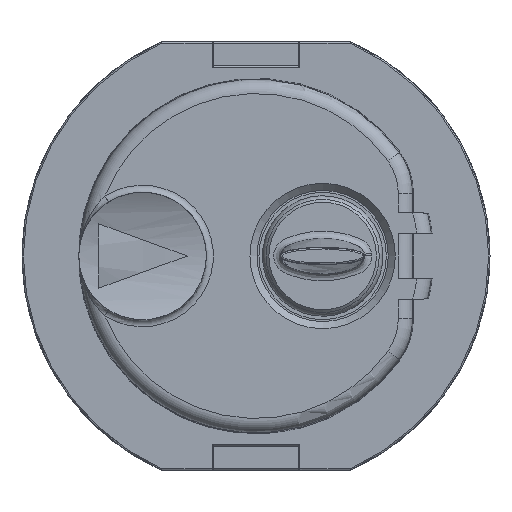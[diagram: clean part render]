
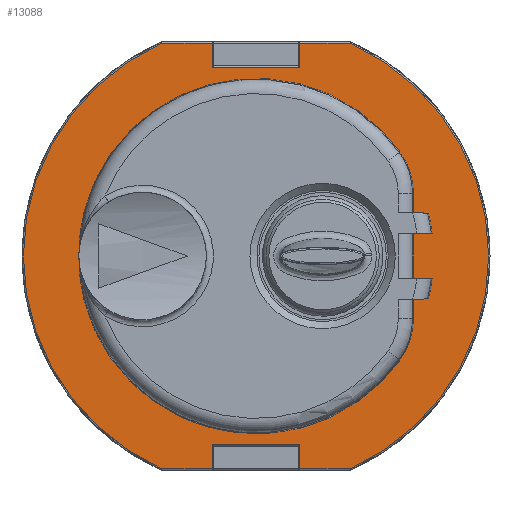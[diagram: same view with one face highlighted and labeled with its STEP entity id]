
A CAD part, front view. The second image highlights one B-rep face of the part: STEP entity #13088.
In plain terms, the highlighted planar face has unit normal (0, -1, 0).
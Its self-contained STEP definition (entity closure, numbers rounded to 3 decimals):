
#429=CIRCLE('',#14243,12.525);
#469=CIRCLE('',#14310,16.4);
#470=CIRCLE('',#14311,16.4);
#471=CIRCLE('',#14312,12.525);
#472=CIRCLE('',#14313,5.);
#473=CIRCLE('',#14314,5.);
#474=CIRCLE('',#14315,12.525);
#1476=FACE_BOUND('',#3020,.T.);
#2276=FACE_OUTER_BOUND('',#3019,.T.);
#3019=EDGE_LOOP('',(#11049,#11050,#11051,#11052,#11053,#11054,#11055,#11056,
#11057,#11058,#11059,#11060));
#3020=EDGE_LOOP('',(#11061,#11062,#11063,#11064,#11065,#11066,#11067,#11068,
#11069,#11070,#11071,#11072));
#4066=LINE('',#22990,#5129);
#4067=LINE('',#22992,#5130);
#4068=LINE('',#22994,#5131);
#4069=LINE('',#22996,#5132);
#4070=LINE('',#22998,#5133);
#4071=LINE('',#23002,#5134);
#4072=LINE('',#23004,#5135);
#4073=LINE('',#23006,#5136);
#4074=LINE('',#23008,#5137);
#4075=LINE('',#23009,#5138);
#4076=LINE('',#23014,#5139);
#4077=LINE('',#23016,#5140);
#4078=LINE('',#23021,#5141);
#4079=LINE('',#23023,#5142);
#4080=LINE('',#23027,#5143);
#4081=LINE('',#23029,#5144);
#4082=LINE('',#23030,#5145);
#5129=VECTOR('',#17151,1.);
#5130=VECTOR('',#17152,1.);
#5131=VECTOR('',#17153,1.);
#5132=VECTOR('',#17154,1.);
#5133=VECTOR('',#17155,1.);
#5134=VECTOR('',#17158,1.);
#5135=VECTOR('',#17159,1.);
#5136=VECTOR('',#17160,1.);
#5137=VECTOR('',#17161,1.);
#5138=VECTOR('',#17162,1.);
#5139=VECTOR('',#17165,1.);
#5140=VECTOR('',#17166,1.);
#5141=VECTOR('',#17171,1.);
#5142=VECTOR('',#17172,1.);
#5143=VECTOR('',#17175,1.);
#5144=VECTOR('',#17176,1.);
#5145=VECTOR('',#17177,1.);
#6235=VERTEX_POINT('',#22032);
#6238=VERTEX_POINT('',#22037);
#6344=VERTEX_POINT('',#22986);
#6345=VERTEX_POINT('',#22987);
#6346=VERTEX_POINT('',#22989);
#6347=VERTEX_POINT('',#22991);
#6348=VERTEX_POINT('',#22993);
#6349=VERTEX_POINT('',#22995);
#6350=VERTEX_POINT('',#22997);
#6351=VERTEX_POINT('',#22999);
#6352=VERTEX_POINT('',#23001);
#6353=VERTEX_POINT('',#23003);
#6354=VERTEX_POINT('',#23005);
#6355=VERTEX_POINT('',#23007);
#6356=VERTEX_POINT('',#23010);
#6357=VERTEX_POINT('',#23011);
#6358=VERTEX_POINT('',#23013);
#6359=VERTEX_POINT('',#23015);
#6360=VERTEX_POINT('',#23018);
#6361=VERTEX_POINT('',#23020);
#6362=VERTEX_POINT('',#23022);
#6363=VERTEX_POINT('',#23024);
#6364=VERTEX_POINT('',#23026);
#6365=VERTEX_POINT('',#23028);
#7870=EDGE_CURVE('',#6238,#6235,#429,.T.);
#7990=EDGE_CURVE('',#6344,#6345,#469,.T.);
#7991=EDGE_CURVE('',#6345,#6346,#4066,.T.);
#7992=EDGE_CURVE('',#6346,#6347,#4067,.T.);
#7993=EDGE_CURVE('',#6347,#6348,#4068,.T.);
#7994=EDGE_CURVE('',#6348,#6349,#4069,.T.);
#7995=EDGE_CURVE('',#6349,#6350,#4070,.T.);
#7996=EDGE_CURVE('',#6350,#6351,#470,.T.);
#7997=EDGE_CURVE('',#6351,#6352,#4071,.T.);
#7998=EDGE_CURVE('',#6352,#6353,#4072,.T.);
#7999=EDGE_CURVE('',#6353,#6354,#4073,.T.);
#8000=EDGE_CURVE('',#6354,#6355,#4074,.T.);
#8001=EDGE_CURVE('',#6355,#6344,#4075,.T.);
#8002=EDGE_CURVE('',#6356,#6357,#471,.T.);
#8003=EDGE_CURVE('',#6358,#6356,#4076,.T.);
#8004=EDGE_CURVE('',#6358,#6359,#4077,.T.);
#8005=EDGE_CURVE('',#6359,#6235,#472,.T.);
#8006=EDGE_CURVE('',#6238,#6360,#473,.T.);
#8007=EDGE_CURVE('',#6361,#6360,#4078,.T.);
#8008=EDGE_CURVE('',#6361,#6362,#4079,.T.);
#8009=EDGE_CURVE('',#6363,#6362,#474,.T.);
#8010=EDGE_CURVE('',#6364,#6363,#4080,.T.);
#8011=EDGE_CURVE('',#6364,#6365,#4081,.T.);
#8012=EDGE_CURVE('',#6365,#6357,#4082,.T.);
#11049=ORIENTED_EDGE('',*,*,#7990,.T.);
#11050=ORIENTED_EDGE('',*,*,#7991,.T.);
#11051=ORIENTED_EDGE('',*,*,#7992,.T.);
#11052=ORIENTED_EDGE('',*,*,#7993,.T.);
#11053=ORIENTED_EDGE('',*,*,#7994,.T.);
#11054=ORIENTED_EDGE('',*,*,#7995,.T.);
#11055=ORIENTED_EDGE('',*,*,#7996,.T.);
#11056=ORIENTED_EDGE('',*,*,#7997,.T.);
#11057=ORIENTED_EDGE('',*,*,#7998,.T.);
#11058=ORIENTED_EDGE('',*,*,#7999,.T.);
#11059=ORIENTED_EDGE('',*,*,#8000,.T.);
#11060=ORIENTED_EDGE('',*,*,#8001,.T.);
#11061=ORIENTED_EDGE('',*,*,#8002,.F.);
#11062=ORIENTED_EDGE('',*,*,#8003,.F.);
#11063=ORIENTED_EDGE('',*,*,#8004,.T.);
#11064=ORIENTED_EDGE('',*,*,#8005,.T.);
#11065=ORIENTED_EDGE('',*,*,#7870,.F.);
#11066=ORIENTED_EDGE('',*,*,#8006,.T.);
#11067=ORIENTED_EDGE('',*,*,#8007,.F.);
#11068=ORIENTED_EDGE('',*,*,#8008,.T.);
#11069=ORIENTED_EDGE('',*,*,#8009,.F.);
#11070=ORIENTED_EDGE('',*,*,#8010,.F.);
#11071=ORIENTED_EDGE('',*,*,#8011,.T.);
#11072=ORIENTED_EDGE('',*,*,#8012,.T.);
#12533=PLANE('',#14309);
#13088=ADVANCED_FACE('',(#2276,#1476),#12533,.T.);
#14243=AXIS2_PLACEMENT_3D('',#22039,#16996,#16997);
#14309=AXIS2_PLACEMENT_3D('',#22985,#17147,#17148);
#14310=AXIS2_PLACEMENT_3D('',#22988,#17149,#17150);
#14311=AXIS2_PLACEMENT_3D('',#23000,#17156,#17157);
#14312=AXIS2_PLACEMENT_3D('',#23012,#17163,#17164);
#14313=AXIS2_PLACEMENT_3D('',#23017,#17167,#17168);
#14314=AXIS2_PLACEMENT_3D('',#23019,#17169,#17170);
#14315=AXIS2_PLACEMENT_3D('',#23025,#17173,#17174);
#16996=DIRECTION('center_axis',(0.,-1.,0.));
#16997=DIRECTION('ref_axis',(0.,0.,-1.));
#17147=DIRECTION('center_axis',(0.,-1.,0.));
#17148=DIRECTION('ref_axis',(0.,0.,-1.));
#17149=DIRECTION('center_axis',(0.,-1.,0.));
#17150=DIRECTION('ref_axis',(0.,0.,-1.));
#17151=DIRECTION('',(-1.,0.,0.));
#17152=DIRECTION('',(0.,0.,-1.));
#17153=DIRECTION('',(-1.,0.,0.));
#17154=DIRECTION('',(0.,0.,1.));
#17155=DIRECTION('',(-1.,0.,0.));
#17156=DIRECTION('center_axis',(0.,-1.,0.));
#17157=DIRECTION('ref_axis',(0.,0.,-1.));
#17158=DIRECTION('',(1.,0.,0.));
#17159=DIRECTION('',(0.,0.,1.));
#17160=DIRECTION('',(1.,0.,0.));
#17161=DIRECTION('',(0.,0.,-1.));
#17162=DIRECTION('',(1.,0.,0.));
#17163=DIRECTION('center_axis',(0.,-1.,0.));
#17164=DIRECTION('ref_axis',(0.,0.,-1.));
#17165=DIRECTION('',(1.,0.,0.026));
#17166=DIRECTION('',(0.,0.,-1.));
#17167=DIRECTION('center_axis',(0.,1.,0.));
#17168=DIRECTION('ref_axis',(0.,0.,-1.));
#17169=DIRECTION('center_axis',(0.,1.,0.));
#17170=DIRECTION('ref_axis',(0.,0.,-1.));
#17171=DIRECTION('',(0.,0.,1.));
#17172=DIRECTION('',(1.,0.,-0.026));
#17173=DIRECTION('center_axis',(0.,-1.,0.));
#17174=DIRECTION('ref_axis',(0.,0.,-1.));
#17175=DIRECTION('',(1.,0.,0.026));
#17176=DIRECTION('',(0.,0.,-1.));
#17177=DIRECTION('',(1.,0.,-0.026));
#22032=CARTESIAN_POINT('',(10.153,0.6,-7.334));
#22037=CARTESIAN_POINT('',(10.153,0.6,7.334));
#22039=CARTESIAN_POINT('Origin',(0.,0.6,0.));
#22985=CARTESIAN_POINT('Origin',(-12.525,0.6,0.));
#22986=CARTESIAN_POINT('',(6.63,0.6,-15.));
#22987=CARTESIAN_POINT('',(6.63,0.6,15.));
#22988=CARTESIAN_POINT('Origin',(0.,0.6,0.));
#22989=CARTESIAN_POINT('',(3.1,0.6,15.));
#22990=CARTESIAN_POINT('',(-12.525,0.6,15.));
#22991=CARTESIAN_POINT('',(3.1,0.6,13.3));
#22992=CARTESIAN_POINT('',(3.1,0.6,0.));
#22993=CARTESIAN_POINT('',(-3.1,0.6,13.3));
#22994=CARTESIAN_POINT('',(-12.525,0.6,13.3));
#22995=CARTESIAN_POINT('',(-3.1,0.6,15.));
#22996=CARTESIAN_POINT('',(-3.1,0.6,15.1));
#22997=CARTESIAN_POINT('',(-6.63,0.6,15.));
#22998=CARTESIAN_POINT('',(-12.525,0.6,15.));
#22999=CARTESIAN_POINT('',(-6.63,0.6,-15.));
#23000=CARTESIAN_POINT('Origin',(0.,0.6,0.));
#23001=CARTESIAN_POINT('',(-3.1,0.6,-15.));
#23002=CARTESIAN_POINT('',(-12.525,0.6,-15.));
#23003=CARTESIAN_POINT('',(-3.1,0.6,-13.3));
#23004=CARTESIAN_POINT('',(-3.1,0.6,0.));
#23005=CARTESIAN_POINT('',(3.1,0.6,-13.3));
#23006=CARTESIAN_POINT('',(-12.525,0.6,-13.3));
#23007=CARTESIAN_POINT('',(3.1,0.6,-15.));
#23008=CARTESIAN_POINT('',(3.1,0.6,-15.1));
#23009=CARTESIAN_POINT('',(-12.525,0.6,-15.));
#23010=CARTESIAN_POINT('',(12.155,0.6,-3.022));
#23011=CARTESIAN_POINT('',(12.42,0.6,-1.62));
#23012=CARTESIAN_POINT('Origin',(0.,0.6,0.));
#23013=CARTESIAN_POINT('',(11.1,0.6,-3.05));
#23014=CARTESIAN_POINT('',(11.1,0.6,-3.05));
#23015=CARTESIAN_POINT('',(11.1,0.6,-4.406));
#23016=CARTESIAN_POINT('',(11.1,0.6,0.));
#23017=CARTESIAN_POINT('Origin',(6.1,0.6,-4.406));
#23018=CARTESIAN_POINT('',(11.1,0.6,4.406));
#23019=CARTESIAN_POINT('Origin',(6.1,0.6,4.406));
#23020=CARTESIAN_POINT('',(11.1,0.6,3.05));
#23021=CARTESIAN_POINT('',(11.1,0.6,0.));
#23022=CARTESIAN_POINT('',(12.155,0.6,3.022));
#23023=CARTESIAN_POINT('',(-12.429,0.6,3.666));
#23024=CARTESIAN_POINT('',(12.42,0.6,1.62));
#23025=CARTESIAN_POINT('Origin',(0.,0.6,0.));
#23026=CARTESIAN_POINT('',(11.1,0.6,1.585));
#23027=CARTESIAN_POINT('',(11.1,0.6,1.585));
#23028=CARTESIAN_POINT('',(11.1,0.6,-1.585));
#23029=CARTESIAN_POINT('',(11.1,0.6,0.));
#23030=CARTESIAN_POINT('',(-12.55,0.6,-0.966));
